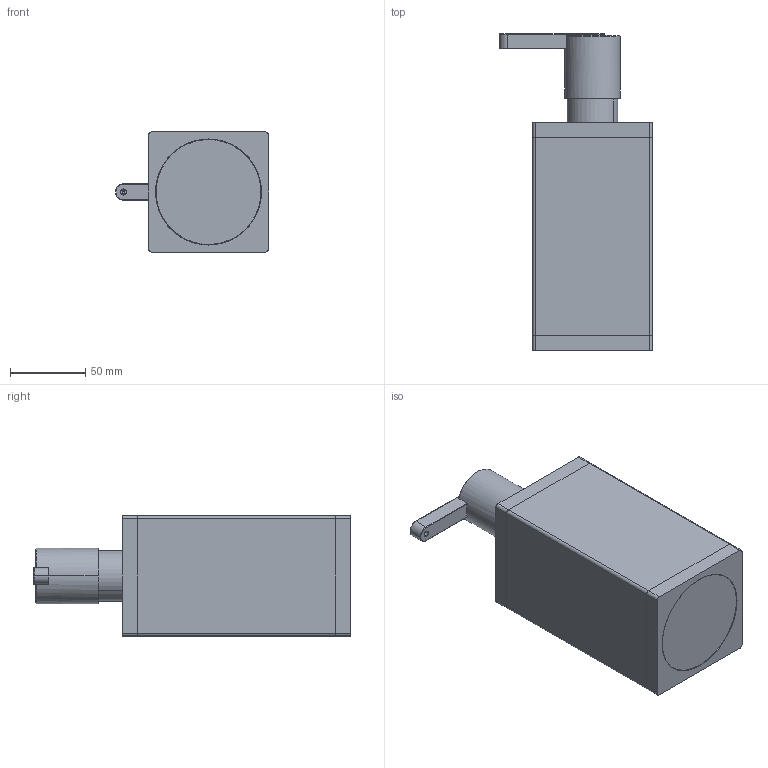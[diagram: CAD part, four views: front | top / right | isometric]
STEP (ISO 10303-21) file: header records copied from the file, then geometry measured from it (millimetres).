
FILE_DESCRIPTION (( 'STEP AP203' ), '1' );
FILE_NAME ('CWD3.STEP', '2021-04-13T07:39:46', ( '' ), ( '' ), 'SwSTEP 2.0', 'SolidWorks 2021', '' );
FILE_SCHEMA (( 'CONFIG_CONTROL_DESIGN' ));
Length unit declared in the file: millimetre
Products named in the file (12): TUBO ACCIAIO cm 13,2; C21.2359.00.0; C24.2312.00.0; ANELLO SUPERIORE DISPENSER QUADRO; C47.00.0078.00; C11.14.0007; C21.2326.00.0; C24.2314.00.0; C25.1747.00.1; AS878_00; CWD3; FONDO NUOVO SCOPINO 3
Assembly tree (12 placements, depth 3):
  CWD3
    TUBO ACCIAIO cm 13,2
    C21.2359.00.0
    FONDO NUOVO SCOPINO 3  x2
    ANELLO SUPERIORE DISPENSER QUADRO
    AS878_00
      C47.00.0078.00
      C21.2326.00.0
      C24.2312.00.0
      C25.1747.00.1
      C24.2314.00.0
      C11.14.0007
Bounding box: 102 x 211.1 x 80 mm (x, y, z)
Volume: 371331.5 mm3; surface area: 222375 mm2
Topology: 11 solids, 11 shells, 947 faces, 2509 edges, 1612 vertices
Faces by surface type: cylinder 671, plane 165, torus 60, cone 49, sphere 2
Entity records: 33302 total; most frequent: CARTESIAN_POINT 8609, DIRECTION 5195, ORIENTED_EDGE 4882, EDGE_CURVE 2441, AXIS2_PLACEMENT_3D 2116, VERTEX_POINT 1572, CIRCLE 1177, EDGE_LOOP 973
